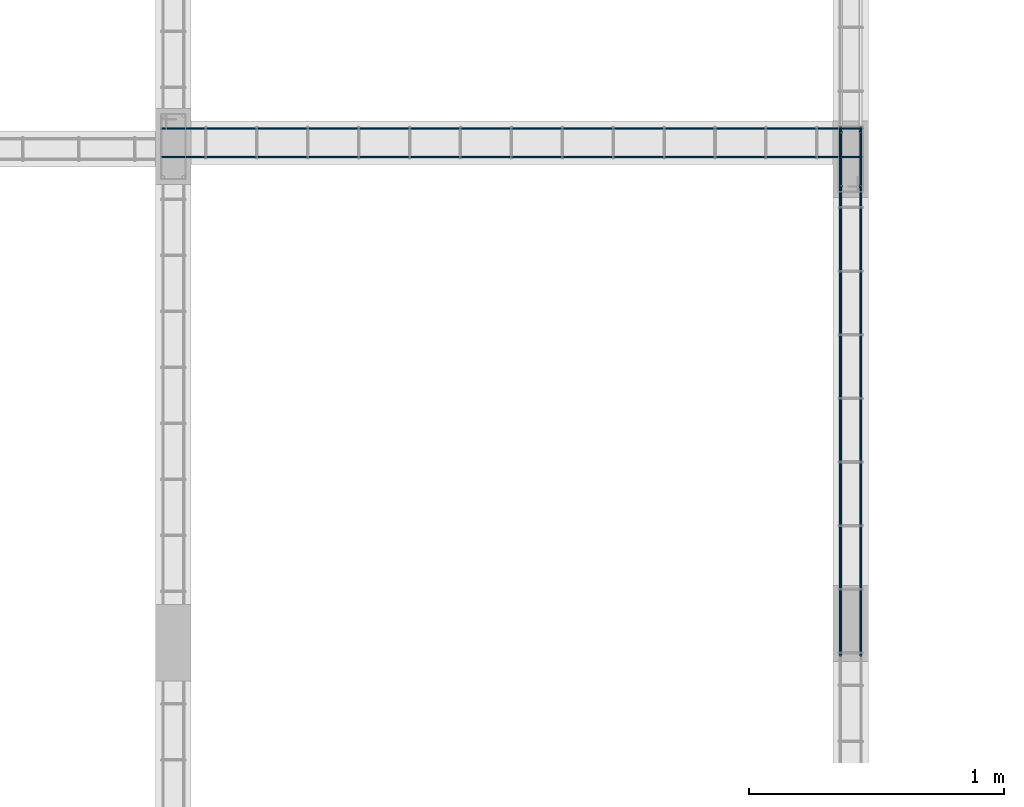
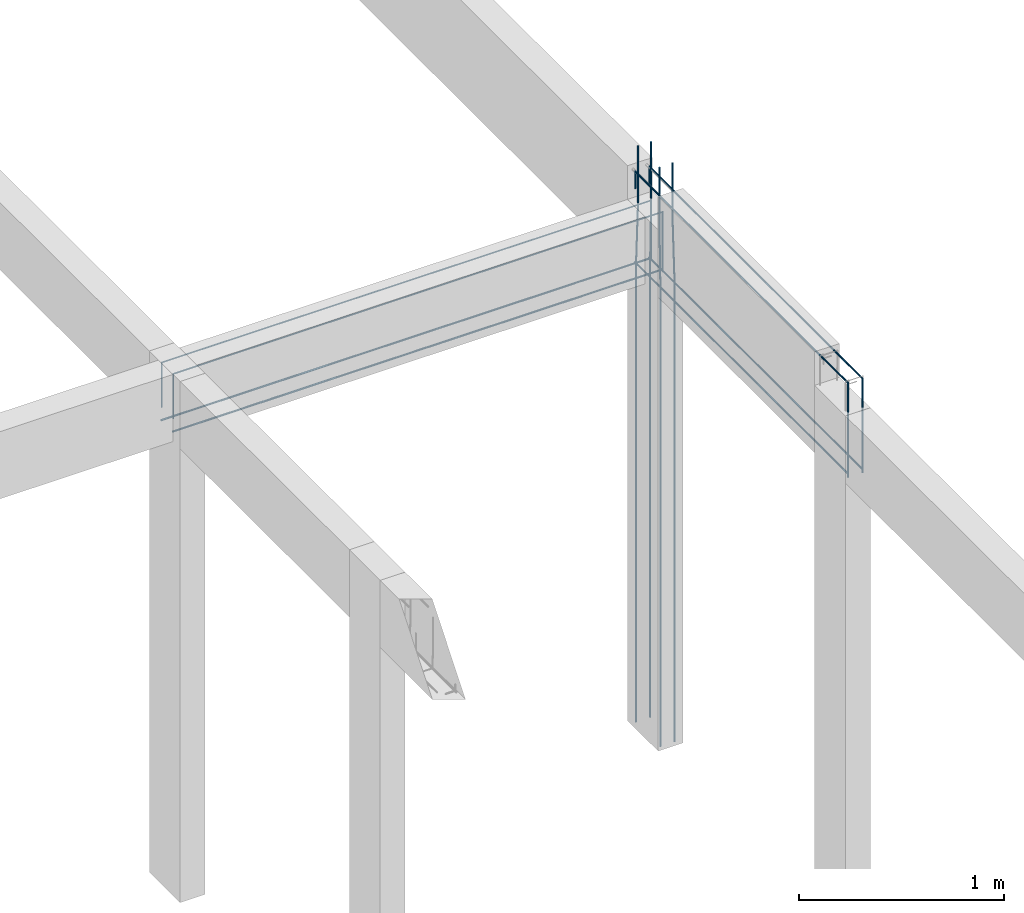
# One storey, part 26 of 236: 12 reinforcing bars.
"""IFC4 building model written with IfcOpenShell, lengths in centimetres."""

from ifc_helpers import new_model, entity, si_unit, derived_unit, frame, origin_with_axes, place, context, project, spatial, element, save


model = new_model("IFC4")

# Units and contexts
model_context = context("Model", 3, precision=1e-05, world=origin_with_axes(), identifier="Body")
ifc_project = project(units=[si_unit("LENGTHUNIT", "METRE", prefix="CENTI"), si_unit("VOLUMEUNIT", "CUBIC_METRE"), si_unit("AREAUNIT", "SQUARE_METRE"), si_unit("POWERUNIT", "WATT"), si_unit("LUMINOUSFLUXUNIT", "LUMEN"), si_unit("ELECTRICCURRENTUNIT", "AMPERE"), si_unit("PRESSUREUNIT", "PASCAL", prefix="KILO"), si_unit("MASSUNIT", "GRAM", prefix="KILO"), si_unit("PLANEANGLEUNIT", "RADIAN"), derived_unit("VOLUMETRICFLOWRATEUNIT", [(si_unit("LENGTHUNIT", "METRE"), 3), (si_unit("TIMEUNIT", "SECOND"), -1)])], contexts=[model_context])

# Site, building, storey
site_placement = place(None, frame((-4000.0, 0.0, 0.0), z_axis=(0.0, 0.0, 1.0), x_axis=(1.0, 0.0, 0.0)))
site = spatial("IfcSite", under=ifc_project, at=site_placement, Name="PADRÃO")
building_placement = place(site_placement, frame((0.0, 0.0, -14.0)))
building = spatial("IfcBuilding", under=site, at=building_placement, Name="CRECHE PRÉ-ESCOLA TIPO 2")
placement_1 = place(building_placement, origin_with_axes())
placement_2 = place(placement_1, frame((0.0, 0.0, 30.0), z_axis=(0.0, 0.0, 1.0), x_axis=(1.0, 0.0, 0.0)))
storey_placement = place(placement_2, frame((0.0, 0.0, 310.0), z_axis=(0.0, 0.0, 1.0), x_axis=(1.0, 0.0, 0.0)))
storey = spatial("IfcBuildingStorey", under=building, at=storey_placement, Name="TERREO", CompositionType="ELEMENT", Elevation=326.0)

# Reinforcing bars
reinforcing_bar_1_placement = place(storey_placement, frame((1380.99, 1012.31, 33.3573001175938), z_axis=(0.0, 0.0, 1.0), x_axis=(1.0, 0.0, 0.0)))
element("IfcReinforcingBar", 1, at=reinforcing_bar_1_placement, inside=storey, Name="P120 - Longitudinal", BarLength=0.0, CrossSectionArea=7.853981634e-05, NominalDiameter=1.0, PredefinedType="MAIN", context=model_context, shape_type="AdvancedSweptSolid", body=[
    entity("IfcSweptDiskSolid", entity("IfcCompositeCurve", [entity("IfcCompositeCurveSegment", "CONTINUOUS", True, entity("IfcPolyline", [entity("IfcCartesianPoint", [-0.15, -0.8, -343.357300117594]), entity("IfcCartesianPoint", [-0.15, -0.8, -73.3573001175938])])), entity("IfcCompositeCurveSegment", "CONTINUOUS", True, entity("IfcPolyline", [entity("IfcCartesianPoint", [-0.15, -0.8, -73.3573001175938]), entity("IfcCartesianPoint", [0.15, 0.8, -33.3573001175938])])), entity("IfcCompositeCurveSegment", "CONTINUOUS", True, entity("IfcPolyline", [entity("IfcCartesianPoint", [0.15, 0.8, -33.3573001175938]), entity("IfcCartesianPoint", [0.15, 0.8, 0.0])]))], False), 0.5),
])
reinforcing_bar_2_placement = place(storey_placement, frame((1380.99, 1034.71, 33.3573001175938), z_axis=(0.0, 0.0, 1.0), x_axis=(1.0, 0.0, 0.0)))
element("IfcReinforcingBar", 2, at=reinforcing_bar_2_placement, inside=storey, Name="P120 - Longitudinal", BarLength=0.0, CrossSectionArea=7.853981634e-05, NominalDiameter=1.0, PredefinedType="MAIN", context=model_context, shape_type="AdvancedSweptSolid", body=[
    entity("IfcSweptDiskSolid", entity("IfcCompositeCurve", [entity("IfcCompositeCurveSegment", "CONTINUOUS", True, entity("IfcPolyline", [entity("IfcCartesianPoint", [-0.15, 0.8, -343.357300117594]), entity("IfcCartesianPoint", [-0.15, 0.8, -73.3573001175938])])), entity("IfcCompositeCurveSegment", "CONTINUOUS", True, entity("IfcPolyline", [entity("IfcCartesianPoint", [-0.15, 0.8, -73.3573001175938]), entity("IfcCartesianPoint", [0.15, -0.8, -33.3573001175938])])), entity("IfcCompositeCurveSegment", "CONTINUOUS", True, entity("IfcPolyline", [entity("IfcCartesianPoint", [0.15, -0.8, -33.3573001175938]), entity("IfcCartesianPoint", [0.15, -0.8, 0.0])]))], False), 0.5),
])
reinforcing_bar_3_placement = place(storey_placement, frame((1388.69, 1034.71, 33.3573001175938), z_axis=(0.0, 0.0, 1.0), x_axis=(1.0, 0.0, 0.0)))
element("IfcReinforcingBar", 3, at=reinforcing_bar_3_placement, inside=storey, Name="P120 - Longitudinal", BarLength=0.0, CrossSectionArea=7.853981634e-05, NominalDiameter=1.0, PredefinedType="MAIN", context=model_context, shape_type="AdvancedSweptSolid", body=[
    entity("IfcSweptDiskSolid", entity("IfcCompositeCurve", [entity("IfcCompositeCurveSegment", "CONTINUOUS", True, entity("IfcPolyline", [entity("IfcCartesianPoint", [0.15, 0.8, -343.357300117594]), entity("IfcCartesianPoint", [0.15, 0.8, -73.3573001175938])])), entity("IfcCompositeCurveSegment", "CONTINUOUS", True, entity("IfcPolyline", [entity("IfcCartesianPoint", [0.15, 0.8, -73.3573001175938]), entity("IfcCartesianPoint", [-0.15, -0.8, -33.3573001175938])])), entity("IfcCompositeCurveSegment", "CONTINUOUS", True, entity("IfcPolyline", [entity("IfcCartesianPoint", [-0.15, -0.8, -33.3573001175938]), entity("IfcCartesianPoint", [-0.15, -0.8, 0.0])]))], False), 0.5),
])
reinforcing_bar_4_placement = place(storey_placement, frame((1388.69, 1012.31, 33.3573001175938), z_axis=(0.0, 0.0, 1.0), x_axis=(1.0, 0.0, 0.0)))
element("IfcReinforcingBar", 4, at=reinforcing_bar_4_placement, inside=storey, Name="P120 - Longitudinal", BarLength=0.0, CrossSectionArea=7.853981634e-05, NominalDiameter=1.0, PredefinedType="MAIN", context=model_context, shape_type="AdvancedSweptSolid", body=[
    entity("IfcSweptDiskSolid", entity("IfcCompositeCurve", [entity("IfcCompositeCurveSegment", "CONTINUOUS", True, entity("IfcPolyline", [entity("IfcCartesianPoint", [0.15, -0.8, -343.357300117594]), entity("IfcCartesianPoint", [0.15, -0.8, -73.3573001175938])])), entity("IfcCompositeCurveSegment", "CONTINUOUS", True, entity("IfcPolyline", [entity("IfcCartesianPoint", [0.15, -0.8, -73.3573001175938]), entity("IfcCartesianPoint", [-0.15, 0.8, -33.3573001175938])])), entity("IfcCompositeCurveSegment", "CONTINUOUS", True, entity("IfcPolyline", [entity("IfcCartesianPoint", [-0.15, 0.8, -33.3573001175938]), entity("IfcCartesianPoint", [-0.15, 0.8, 0.0])]))], False), 0.5),
])
for number, where, z_axis, x_axis, name in (
    (5, (1251.7818751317, 1035.61, -27.1), (0.0, 0.0, 1.0), (1.0, 0.0, 0.0), "V247 - Longitudinal inferior"),
    (6, (1251.7818751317, 1024.41, -27.1), (0.0, 0.0, 1.0), (1.0, 0.0, 0.0), "V247 - Longitudinal inferior"),
):
    element("IfcReinforcingBar", number, at=place(storey_placement, frame(where, z_axis=z_axis, x_axis=x_axis)), inside=storey, Name=name, BarLength=0.0, CrossSectionArea=5.0265482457e-05, NominalDiameter=0.8, PredefinedType="MAIN", context=model_context, shape_type="AdvancedSweptSolid", body=[
        entity("IfcSweptDiskSolid", entity("IfcCompositeCurve", [entity("IfcCompositeCurveSegment", "CONTINUOUS", True, entity("IfcPolyline", [entity("IfcCartesianPoint", [-138.0618751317, 0.0, -10.0]), entity("IfcCartesianPoint", [137.6581248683, 0.0, -10.0])])), entity("IfcCompositeCurveSegment", "CONTINUOUS", True, entity("IfcPolyline", [entity("IfcCartesianPoint", [137.6581248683, 0.0, -10.0]), entity("IfcCartesianPoint", [137.6581248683, 0.0, 0.0])]))], False), 0.4),
    ])
for number, where, z_axis, x_axis, name in (
    (7, (1251.78, 1024.41, -2.49624973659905), (0.0, 0.0, 1.0), (1.0, 0.0, 0.0), "V247 - Longitudinal superior"),
    (8, (1251.78, 1035.61, -2.49624973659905), (0.0, 0.0, 1.0), (1.0, 0.0, 0.0), "V247 - Longitudinal superior"),
):
    element("IfcReinforcingBar", number, at=place(storey_placement, frame(where, z_axis=z_axis, x_axis=x_axis)), inside=storey, Name=name, BarLength=0.0, CrossSectionArea=5.0265482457e-05, NominalDiameter=0.8, PredefinedType="MAIN", context=model_context, shape_type="AdvancedSweptSolid", body=[
        entity("IfcSweptDiskSolid", entity("IfcCompositeCurve", [entity("IfcCompositeCurveSegment", "CONTINUOUS", True, entity("IfcPolyline", [entity("IfcCartesianPoint", [-137.66, 0.0, -27.089590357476]), entity("IfcCartesianPoint", [-137.66, 0.0, -0.403750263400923])])), entity("IfcCompositeCurveSegment", "CONTINUOUS", True, entity("IfcPolyline", [entity("IfcCartesianPoint", [-137.66, 0.0, -0.403750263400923]), entity("IfcCartesianPoint", [137.66, 0.0, -0.403750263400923])])), entity("IfcCompositeCurveSegment", "CONTINUOUS", True, entity("IfcPolyline", [entity("IfcCartesianPoint", [137.66, 0.0, -0.403750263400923]), entity("IfcCartesianPoint", [137.66, 0.0, -27.089590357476])]))], False), 0.4),
    ])
for number, where, z_axis, x_axis, name in (
    (9, (1380.84, 932.302656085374, -10.2427448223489), (0.0, 0.0, 1.0), (1.0, 0.0, 0.0), "V282 - Longitudinal inferior"),
    (10, (1388.84, 932.302656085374, -10.2427448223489), (0.0, 0.0, 1.0), (1.0, 0.0, 0.0), "V282 - Longitudinal inferior"),
):
    element("IfcReinforcingBar", number, at=place(storey_placement, frame(where, z_axis=z_axis, x_axis=x_axis)), inside=storey, Name=name, BarLength=0.0, CrossSectionArea=7.853981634e-05, NominalDiameter=1.0, PredefinedType="MAIN", context=model_context, shape_type="AdvancedSweptSolid", body=[
        entity("IfcSweptDiskSolid", entity("IfcCompositeCurve", [entity("IfcCompositeCurveSegment", "CONTINUOUS", True, entity("IfcPolyline", [entity("IfcCartesianPoint", [0.0, -103.702656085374, 0.0]), entity("IfcCartesianPoint", [0.0, -103.702656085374, -26.7572551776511])])), entity("IfcCompositeCurveSegment", "CONTINUOUS", True, entity("IfcPolyline", [entity("IfcCartesianPoint", [0.0, -103.702656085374, -26.7572551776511]), entity("IfcCartesianPoint", [0.0, 104.207343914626, -26.7572551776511])]))], False), 0.5),
    ])
for number, where, z_axis, x_axis, name in (
    (11, (1380.84, 932.305, 17.5046878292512), (0.0, 0.0, 1.0), (1.0, 0.0, 0.0), "V282 - Longitudinal superior"),
    (12, (1388.84, 932.305, 17.5046878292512), (0.0, 0.0, 1.0), (1.0, 0.0, 0.0), "V282 - Longitudinal superior"),
):
    element("IfcReinforcingBar", number, at=place(storey_placement, frame(where, z_axis=z_axis, x_axis=x_axis)), inside=storey, Name=name, BarLength=0.0, CrossSectionArea=7.853981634e-05, NominalDiameter=1.0, PredefinedType="MAIN", context=model_context, shape_type="AdvancedSweptSolid", body=[
        entity("IfcSweptDiskSolid", entity("IfcCompositeCurve", [entity("IfcCompositeCurveSegment", "CONTINUOUS", True, entity("IfcPolyline", [entity("IfcCartesianPoint", [0.0, -103.705, -56.5046878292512]), entity("IfcCartesianPoint", [0.0, -103.705, -0.504687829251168])])), entity("IfcCompositeCurveSegment", "CONTINUOUS", True, entity("IfcPolyline", [entity("IfcCartesianPoint", [0.0, -103.705, -0.504687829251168]), entity("IfcCartesianPoint", [0.0, 103.705, -0.504687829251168])])), entity("IfcCompositeCurveSegment", "CONTINUOUS", True, entity("IfcPolyline", [entity("IfcCartesianPoint", [0.0, 103.705, -0.504687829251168]), entity("IfcCartesianPoint", [0.0, 103.705, -10.5046878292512])]))], False), 0.5),
    ])

save(model, "model.ifc")
